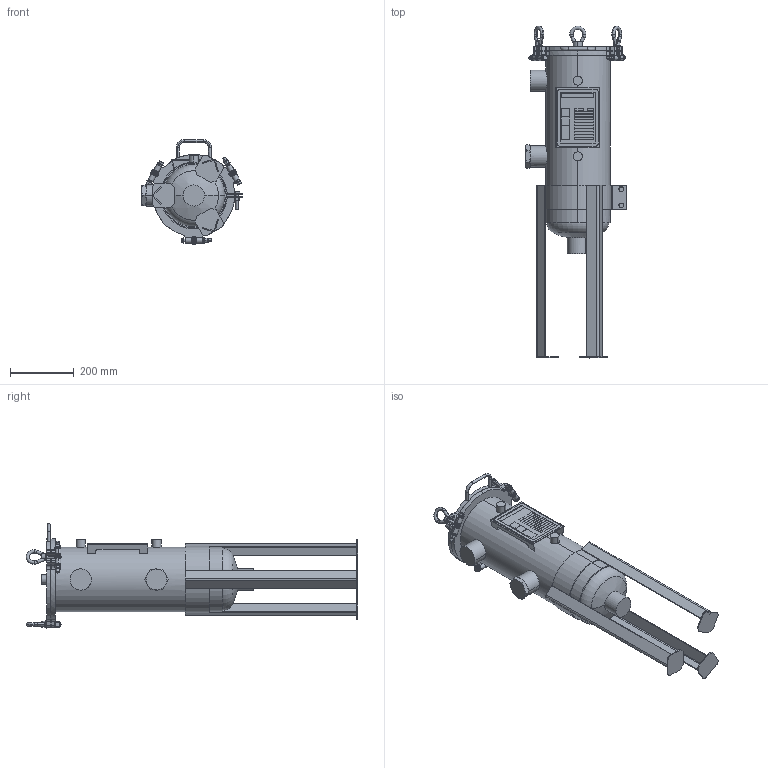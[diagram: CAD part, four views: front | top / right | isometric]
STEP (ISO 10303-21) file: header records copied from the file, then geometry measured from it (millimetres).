
FILE_DESCRIPTION (( 'STEP AP203' ), '1' );
FILE_NAME ('002001-20038.step', '2025-12-09T14:43:18', ( '' ), ( '' ), 'SwSTEP 2.0', 'SolidWorks 2023', '' );
FILE_SCHEMA (( 'CONFIG_CONTROL_DESIGN' ));
Length unit declared in the file: inch
Products named in the file (1): 002001-20038
Bounding box: 316.45 x 1043.38 x 329.95 mm (x, y, z)
Volume: 20964505.4 mm3; surface area: 1065273.7 mm2
Topology: 10 solids, 10 shells, 807 faces, 1930 edges, 1195 vertices
Faces by surface type: plane 317, cylinder 239, cone 139, torus 59, bspline 51, sphere 2
Entity records: 27334 total; most frequent: CARTESIAN_POINT 8836, DIRECTION 3901, ORIENTED_EDGE 3836, EDGE_CURVE 1918, AXIS2_PLACEMENT_3D 1576, VERTEX_POINT 1195, EDGE_LOOP 883, CIRCLE 819
